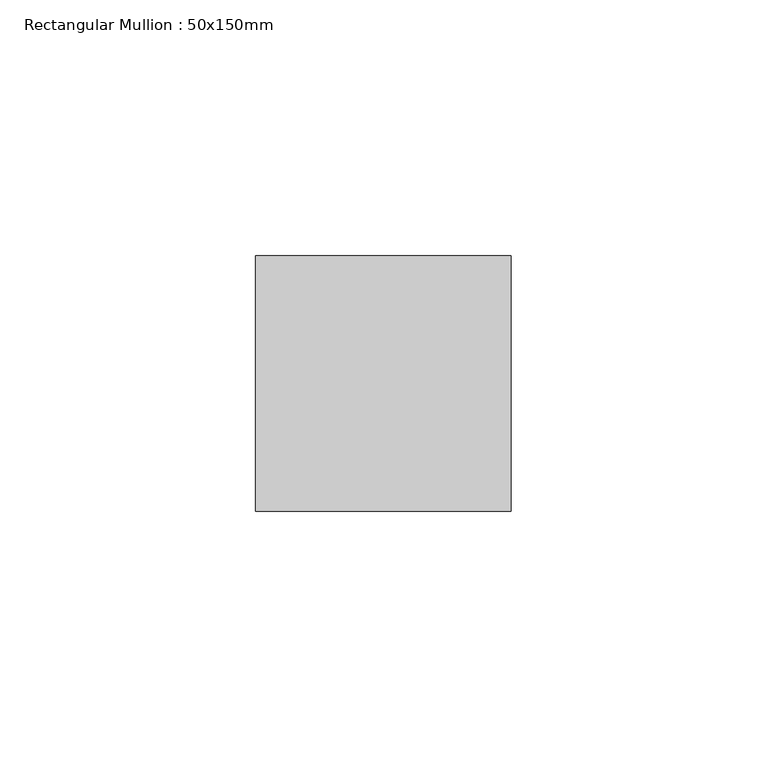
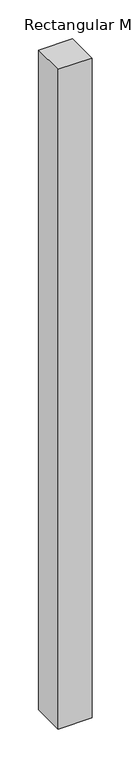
"""IFC4 building model written with IfcOpenShell, lengths in millimetres: member geometry, Rectangular Mullion : 50x150mm."""

import ifcopenshell
import ifcopenshell.guid

model = None  # the IFC model being written
_history = None  # IfcOwnerHistory: only IFC2X3 demands one
_inside = {}  # id of a spatial element -> (the spatial element, [elements in it])
_under = {}  # id of a project, library or spatial element -> (it, [spatial elements below it])
_declared = {}  # id of a project -> (the project, [libraries it declares])
_typed = {}  # id of a type object -> (the type object, [elements of that type])
_made_of = {}  # id of a material, layer set ... -> (it, [elements and type objects made of it])


def new_model(schema):
    """Start an empty IFC model of exactly this schema.

    Asked for "IFC4X3", IfcOpenShell would pick the latest addendum, in which some entities
    have other attributes; the version numbers below select the first issue.
    IFC2X3 requires an IfcOwnerHistory on every rooted entity: one is made here for all.
    """
    global model, _history
    if schema == "IFC4X3":
        model = ifcopenshell.file(schema_version=(4, 3, 0, 0))
    else:
        model = ifcopenshell.file(schema=schema)
    _inside.clear()
    _under.clear()
    _declared.clear()
    _typed.clear()
    _made_of.clear()
    _history = None
    if model.schema == "IFC2X3":
        org = make("IfcOrganization", Name="unknown")
        user = make(
            "IfcPersonAndOrganization",
            ThePerson=make("IfcPerson", FamilyName="unknown"),
            TheOrganization=org,
        )
        app = make(
            "IfcApplication",
            ApplicationDeveloper=org,
            Version="unknown",
            ApplicationFullName="unknown",
            ApplicationIdentifier="unknown",
        )
        _history = make(
            "IfcOwnerHistory",
            OwningUser=user,
            OwningApplication=app,
            ChangeAction="ADDED",
            CreationDate=0,
        )
    return model


def make(cls, **values):
    """One entity of the class cls with the attributes given. An attribute that is None is left unset."""
    return model.create_entity(
        cls, **{name: value for name, value in values.items() if value is not None}
    )


def rooted(cls, **values):
    """An entity with a GlobalId (a new one), such as an element, a storey or a relation."""
    return make(cls, GlobalId=ifcopenshell.guid.new(), OwnerHistory=_history, **values)


def si_unit(unit_type, name, prefix=None):
    """IfcSIUnit, for example si_unit("LENGTHUNIT", "METRE", prefix="MILLI")."""
    return make("IfcSIUnit", UnitType=unit_type, Prefix=prefix, Name=name)


def assignment(units):
    """IfcUnitAssignment: the units of a project."""
    return None if units is None else make("IfcUnitAssignment", Units=units)


def point(xyz):
    """IfcCartesianPoint."""
    return None if xyz is None else make("IfcCartesianPoint", Coordinates=xyz)


def direction(xyz):
    """IfcDirection."""
    return None if xyz is None else make("IfcDirection", DirectionRatios=xyz)


def frame(location, z_axis=None, x_axis=None):
    """IfcAxis2Placement3D, a coordinate frame: its origin and axes. An axis left out is left unset."""
    return make(
        "IfcAxis2Placement3D",
        Location=point(location),
        Axis=direction(z_axis),
        RefDirection=direction(x_axis),
    )


def origin():
    """The frame at (0, 0, 0) with its axes left unset."""
    return frame((0.0, 0.0, 0.0))


def place(relative_to, where):
    """IfcLocalPlacement: puts the frame where relative to a parent placement (None: the world)."""
    return make(
        "IfcLocalPlacement", PlacementRelTo=relative_to, RelativePlacement=where
    )


def context(
    kind, dimensions, precision=None, world=None, true_north=None, identifier=None
):
    """IfcGeometricRepresentationContext, for example the 3D "Model" context."""
    return make(
        "IfcGeometricRepresentationContext",
        ContextIdentifier=identifier,
        ContextType=kind,
        CoordinateSpaceDimension=dimensions,
        Precision=precision,
        WorldCoordinateSystem=world,
        TrueNorth=true_north,
    )


def project(units=None, contexts=None):
    """IfcProject with its units and contexts."""
    return rooted(
        "IfcProject",
        Name="project",
        RepresentationContexts=contexts,
        UnitsInContext=assignment(units),
    )


def spatial(cls, under=None, at=None, **own):
    """A site, building, storey or space (cls), placed at a placement, below another one or the project."""
    s = rooted(cls, ObjectPlacement=at, **own)
    if under is not None:
        _under.setdefault(under.id(), (under, []))[1].append(s)
    return s


def polyline(points):
    """IfcPolyline through the points."""
    return make("IfcPolyline", Points=[point(p) for p in points])


def outline(outer, holes=None, kind="AREA"):
    """IfcArbitraryClosedProfileDef: a profile drawn as a closed curve; with holes, ...WithVoids."""
    if holes is None:
        return make("IfcArbitraryClosedProfileDef", ProfileType=kind, OuterCurve=outer)
    return make(
        "IfcArbitraryProfileDefWithVoids",
        ProfileType=kind,
        OuterCurve=outer,
        InnerCurves=holes,
    )


def extrude(swept, where, along, depth):
    """IfcExtrudedAreaSolid: the profile swept, set in the frame where, extruded along a direction by depth."""
    return make(
        "IfcExtrudedAreaSolid",
        SweptArea=swept,
        Position=where,
        ExtrudedDirection=direction(along),
        Depth=depth,
    )


def shape(context_of_items, identifier, shape_type, items):
    """IfcShapeRepresentation: the items that make up one representation, for example the "Body"."""
    return make(
        "IfcShapeRepresentation",
        ContextOfItems=context_of_items,
        RepresentationIdentifier=identifier,
        RepresentationType=shape_type,
        Items=items,
    )


def source(mapping_origin, context_of_items, identifier, shape_type, items):
    """IfcRepresentationMap: a shape defined once, which mapped items show again and again."""
    return make(
        "IfcRepresentationMap",
        MappingOrigin=mapping_origin,
        MappedRepresentation=shape(context_of_items, identifier, shape_type, items),
    )


def transform(
    local_origin,
    x_axis=None,
    y_axis=None,
    z_axis=None,
    scale=None,
    scale2=None,
    scale3=None,
    uniform=True,
):
    """IfcCartesianTransformationOperator3D, or its non-uniform kind. x_axis, y_axis, z_axis: its Axis1, 2, 3."""
    if uniform:
        return make(
            "IfcCartesianTransformationOperator3D",
            Axis1=direction(x_axis),
            Axis2=direction(y_axis),
            LocalOrigin=point(local_origin),
            Scale=scale,
            Axis3=direction(z_axis),
        )
    return make(
        "IfcCartesianTransformationOperator3DnonUniform",
        Axis1=direction(x_axis),
        Axis2=direction(y_axis),
        LocalOrigin=point(local_origin),
        Scale=scale,
        Axis3=direction(z_axis),
        Scale2=scale2,
        Scale3=scale3,
    )


def mapped(mapping_source, mapping_target):
    """IfcMappedItem: shows the shape of a source again, moved by a transform."""
    return make(
        "IfcMappedItem", MappingSource=mapping_source, MappingTarget=mapping_target
    )


def made_of(thing, what):
    """Note that an element or type object is made of a material, layer set ...; save() writes the relation."""
    if what is not None:
        _made_of.setdefault(what.id(), (what, []))[1].append(thing)
    return thing


def element(
    cls,
    number,
    at=None,
    inside=None,
    cuts=None,
    type_object=None,
    material=None,
    context=None,
    identifier="Body",
    shape_type=None,
    held_by="IfcProductDefinitionShape",
    body=None,
    shapes=None,
    **own,
):
    """One element of the class cls, such as IfcWall. Its Tag is "e" and its number.

    at: its placement. inside: the storey or other place that contains it. cuts: it is an
    opening in that element (IfcRelVoidsElement). A single representation is given by context,
    identifier, shape_type and body (its items); several are given by shapes. held_by: the class
    of the entity that holds the representations. save() writes the other relations.
    """
    e = rooted(cls, Tag="e%d" % number, ObjectPlacement=at, **own)
    if body is not None:
        shapes = [shape(context, identifier, shape_type, body)]
    if shapes is not None:
        e.Representation = make(held_by, Representations=shapes)
    if inside is not None:
        _inside.setdefault(inside.id(), (inside, []))[1].append(e)
    if cuts is not None:
        rooted(
            "IfcRelVoidsElement", RelatingBuildingElement=cuts, RelatedOpeningElement=e
        )
    if type_object is not None:
        _typed.setdefault(type_object.id(), (type_object, []))[1].append(e)
    return made_of(e, material)


def aggregate(whole, parts):
    """IfcRelAggregates: a whole, such as a stair, and the parts it consists of."""
    return rooted("IfcRelAggregates", RelatingObject=whole, RelatedObjects=parts)


def save(model, path):
    """Write the relations noted so far, then the file.

    IfcRelAggregates (storeys below a building ...), IfcRelContainedInSpatialStructure (elements
    in a storey), IfcRelDefinesByType, IfcRelAssociatesMaterial and IfcRelDeclares: one each for
    every whole, place, type object, material and project.
    """
    for whole, parts in _under.values():
        aggregate(whole, parts)
    for where, things in _inside.values():
        rooted(
            "IfcRelContainedInSpatialStructure",
            RelatedElements=things,
            RelatingStructure=where,
        )
    for kind, things in _typed.values():
        rooted("IfcRelDefinesByType", RelatedObjects=things, RelatingType=kind)
    for what, things in _made_of.values():
        rooted("IfcRelAssociatesMaterial", RelatedObjects=things, RelatingMaterial=what)
    for by, libraries in _declared.values():
        rooted("IfcRelDeclares", RelatingContext=by, RelatedDefinitions=libraries)
    model.write(path)


def rectangular_mullion_50x150mm_3b0701cb(model_context):
    return source(origin(), model_context, "Body", "SweptSolid", [
        extrude(outline(polyline([(0.0, 25.0), (0.0, -25.0), (-50.0, -25.0), (-50.0, 25.0), (0.0, 25.0)])), frame((0.0, 0.0, -1033.4529299), z_axis=(0.0, 0.0, 1.0), x_axis=(1.0, 0.0, 0.0)), (0.0, 0.0, 1.0), 1033.4529299),
    ])


if __name__ == "__main__":
    model = new_model("IFC4")
    model_context = context("Model", 3, world=origin())
    ifc_project = project(units=[si_unit("LENGTHUNIT", "METRE", prefix="MILLI")], contexts=[model_context])
    site = spatial("IfcSite", under=ifc_project)
    building = spatial("IfcBuilding", under=site)
    placement = place(None, origin())
    rectangular_mullion_50x150mm_shape = rectangular_mullion_50x150mm_3b0701cb(model_context)
    element("IfcMember", 1, ObjectType="Rectangular Mullion : 50x150mm", at=placement, inside=building, context=model_context, shape_type="MappedRepresentation", body=[
        mapped(rectangular_mullion_50x150mm_shape, transform((0.0, 0.0, 0.0), x_axis=(1.0, 0.0, 0.0), y_axis=(0.0, 1.0, 0.0), z_axis=(0.0, 0.0, 1.0))),
    ])
    save(model, "model.ifc")
